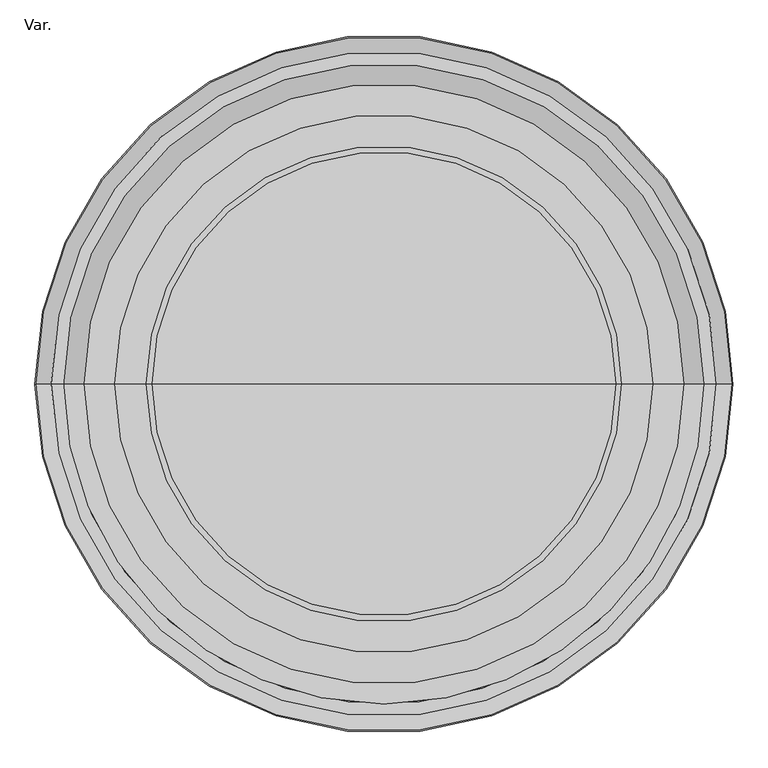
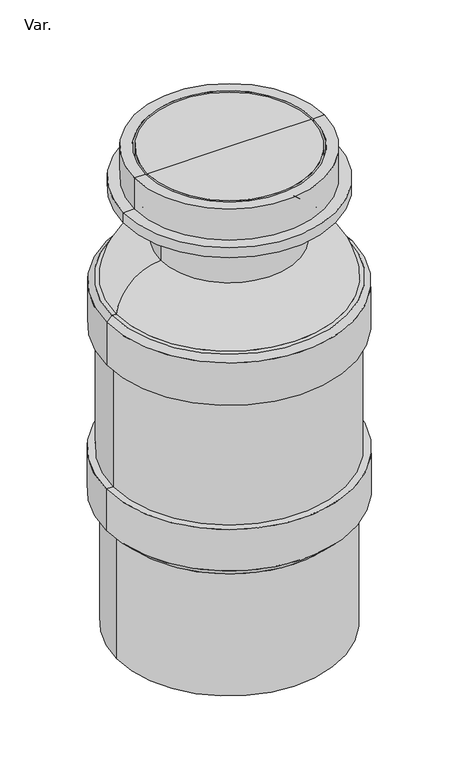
"""IFC4 building model written with IfcOpenShell, lengths in millimetres: pipe fitting geometry, PavcoWavin_UnionesDeTuberia_NovacamTipoTanque : Var.."""

from ifc_helpers import new_model, si_unit, point, frame, origin, place, context, project, spatial, polyline, circle_curve, ellipse_curve, trimmed, source, transform, mapped, element, save
from ifc_brep_helpers import plane_surface, cylinder_surface, revolved_surface, advanced_brep


def var_4e97a6d6(model_context):
    return source(origin(), model_context, "Body", "AdvancedBrep", [
        advanced_brep(
        [(385.0, 0.0, 2086.0), (-385.0, 0.0, 2086.0), (-385.0, 0.0, 1986.0), (385.0, 0.0, 1986.0), (435.0, 0.0, 1936.0), (-435.0, 0.0, 1936.0), (-435.0, 0.0, 2086.0), (435.0, 0.0, 2086.0), (485.0, 0.0, 1936.0), (-485.0, 0.0, 1936.0), (485.0, 0.0, 1886.0), (-485.0, 0.0, 1886.0), (335.0, 0.0, 1886.0), (-335.0, 0.0, 1886.0), (335.0, 0.0, 1986.0), (-335.0, 0.0, 1986.0)],
        [
            (0, 1, circle_curve(frame((0.0, 0.0, 2086.0), z_axis=(0.0, 0.0, 1.0), x_axis=(-1.0, 0.0, 0.0)), 385.0)),
            (1, 2),
            (2, 3, circle_curve(frame((0.0, 0.0, 1986.0), z_axis=(0.0, 0.0, -1.0), x_axis=(-1.0, 0.0, 0.0)), 385.0)),
            (3, 0),
            (4, 5, circle_curve(frame((0.0, 0.0, 1936.0), z_axis=(0.0, 0.0, 1.0), x_axis=(-1.0, 0.0, 0.0)), 435.0)),
            (5, 6),
            (6, 7, circle_curve(frame((0.0, 0.0, 2086.0), z_axis=(0.0, 0.0, -1.0), x_axis=(-1.0, 0.0, 0.0)), 435.0)),
            (7, 4),
            (8, 9, circle_curve(frame((0.0, 0.0, 1936.0), z_axis=(0.0, 0.0, 1.0), x_axis=(-1.0, 0.0, 0.0)), 485.0)),
            (9, 5),
            (4, 8),
            (10, 11, circle_curve(frame((0.0, 0.0, 1886.0), z_axis=(0.0, 0.0, 1.0), x_axis=(-1.0, 0.0, 0.0)), 485.0)),
            (11, 9),
            (8, 10),
            (12, 13, circle_curve(frame((0.0, 0.0, 1886.0), z_axis=(0.0, 0.0, 1.0), x_axis=(-1.0, 0.0, 0.0)), 335.0)),
            (13, 11),
            (10, 12),
            (14, 15, circle_curve(frame((0.0, 0.0, 1986.0), z_axis=(0.0, 0.0, 1.0), x_axis=(-1.0, 0.0, 0.0)), 335.0)),
            (15, 13),
            (12, 14),
            (2, 15),
            (14, 3),
            (1, 0, circle_curve(frame((0.0, 0.0, 2086.0), z_axis=(0.0, 0.0, 1.0), x_axis=(-1.0, 0.0, 0.0)), 385.0)),
            (3, 2, circle_curve(frame((0.0, 0.0, 1986.0), z_axis=(0.0, 0.0, -1.0), x_axis=(-1.0, 0.0, 0.0)), 385.0)),
            (5, 4, circle_curve(frame((0.0, 0.0, 1936.0), z_axis=(0.0, 0.0, 1.0), x_axis=(-1.0, 0.0, 0.0)), 435.0)),
            (7, 6, circle_curve(frame((0.0, 0.0, 2086.0), z_axis=(0.0, 0.0, -1.0), x_axis=(-1.0, 0.0, 0.0)), 435.0)),
            (9, 8, circle_curve(frame((0.0, 0.0, 1936.0), z_axis=(0.0, 0.0, 1.0), x_axis=(-1.0, 0.0, 0.0)), 485.0)),
            (11, 10, circle_curve(frame((0.0, 0.0, 1886.0), z_axis=(0.0, 0.0, 1.0), x_axis=(-1.0, 0.0, 0.0)), 485.0)),
            (13, 12, circle_curve(frame((0.0, 0.0, 1886.0), z_axis=(0.0, 0.0, 1.0), x_axis=(-1.0, 0.0, 0.0)), 335.0)),
            (15, 14, circle_curve(frame((0.0, 0.0, 1986.0), z_axis=(0.0, 0.0, 1.0), x_axis=(-1.0, 0.0, 0.0)), 335.0)),
            (6, 1),
            (0, 7),
        ],
        [
            revolved_surface(polyline([(-385.0, 0.0, 1986.0), (-385.0, 0.0, 2086.0)]), (0.0, 0.0, 1965.0514894), (0.0, 0.0, -1.0)),
            cylinder_surface(frame((0.0, 0.0, 1965.0514894), z_axis=(0.0, 0.0, -1.0), x_axis=(-1.0, 0.0, 0.0)), 435.0),
            plane_surface(frame((0.0, 0.0, 1936.0), z_axis=(0.0, 0.0, 1.0), x_axis=(-1.0, 0.0, 0.0))),
            cylinder_surface(frame((0.0, 0.0, 1965.0514894), z_axis=(0.0, 0.0, -1.0), x_axis=(-1.0, 0.0, 0.0)), 485.0),
            plane_surface(frame((0.0, 0.0, 1886.0), z_axis=(0.0, 0.0, -1.0), x_axis=(-1.0, 0.0, 0.0))),
            revolved_surface(polyline([(-335.0, 0.0, 1886.0), (-335.0, 0.0, 1986.0)]), (0.0, 0.0, 1965.0514894), (0.0, 0.0, -1.0)),
            plane_surface(frame((0.0, 0.0, 1986.0), z_axis=(0.0, 0.0, 1.0), x_axis=(-1.0, 0.0, 0.0))),
            plane_surface(frame((0.0, 0.0, 2086.0), z_axis=(0.0, 0.0, 1.0), x_axis=(-1.0, 0.0, 0.0))),
        ],
        [
            (0, [[1, 2, 3, 4]]),
            (1, [[5, 6, 7, 8]]),
            (2, [[9, 10, -5, 11]]),
            (3, [[12, 13, -9, 14]]),
            (4, [[15, 16, -12, 17]]),
            (5, [[18, 19, -15, 20]]),
            (6, [[-3, 21, -18, 22]]),
            (0, [[23, -4, 24, -2]]),
            (1, [[25, -8, 26, -6]]),
            (2, [[27, -11, -25, -10]]),
            (3, [[28, -14, -27, -13]]),
            (4, [[29, -17, -28, -16]]),
            (5, [[30, -20, -29, -19]]),
            (6, [[-24, -22, -30, -21]]),
            (7, [[-7, 31, -1, 32]]),
            (7, [[-26, -32, -23, -31]]),
        ],
    ),
        advanced_brep(
        [(265.0, 0.0, 2036.0), (-265.0, 0.0, 2036.0), (-305.0, 0.0, 1996.0), (305.0, 0.0, 1996.0), (-375.0, 0.0, 1996.0), (375.0, 0.0, 1996.0), (-375.0, 0.0, 2086.0), (375.0, 0.0, 2086.0), (0.0, 0.0, 2036.0), (0.0, 0.0, 2086.0)],
        [
            (0, 1, circle_curve(frame((0.0, 0.0, 2036.0), z_axis=(0.0, 0.0, 1.0), x_axis=(-1.0, 0.0, 0.0)), 265.0)),
            (1, 2),
            (2, 3, circle_curve(frame((0.0, 0.0, 1996.0), z_axis=(0.0, 0.0, -1.0), x_axis=(-1.0, 0.0, 0.0)), 305.0)),
            (3, 0),
            (2, 4),
            (4, 5, circle_curve(frame((0.0, 0.0, 1996.0), z_axis=(0.0, 0.0, -1.0), x_axis=(-1.0, 0.0, 0.0)), 375.0)),
            (5, 3),
            (4, 6),
            (6, 7, circle_curve(frame((0.0, 0.0, 2086.0), z_axis=(0.0, 0.0, -1.0), x_axis=(-1.0, 0.0, 0.0)), 375.0)),
            (7, 5),
            (4, 5, circle_curve(frame((0.0, 0.0, 1996.0), z_axis=(0.0, 0.0, 1.0), x_axis=(-1.0, 0.0, 0.0)), 375.0)),
            (7, 6, circle_curve(frame((0.0, 0.0, 2086.0), z_axis=(0.0, 0.0, -1.0), x_axis=(-1.0, 0.0, 0.0)), 375.0)),
            (2, 3, circle_curve(frame((0.0, 0.0, 1996.0), z_axis=(0.0, 0.0, 1.0), x_axis=(-1.0, 0.0, 0.0)), 305.0)),
            (1, 0, circle_curve(frame((0.0, 0.0, 2036.0), z_axis=(0.0, 0.0, 1.0), x_axis=(-1.0, 0.0, 0.0)), 265.0)),
            (8, 1),
            (0, 8),
            (6, 9),
            (9, 7),
        ],
        [
            revolved_surface(polyline([(-305.0, 0.0, 1996.0), (-265.0, 0.0, 2036.0)]), (0.0, 0.0, 1965.0514894), (0.0, 0.0, -1.0)),
            plane_surface(frame((0.0, 0.0, 1996.0), z_axis=(0.0, 0.0, -1.0), x_axis=(-1.0, 0.0, 0.0))),
            cylinder_surface(frame((0.0, 0.0, 1965.0514894), z_axis=(0.0, 0.0, -1.0), x_axis=(-1.0, 0.0, 0.0)), 375.0),
            plane_surface(frame((0.0, 0.0, 2036.0), z_axis=(0.0, 0.0, -1.0), x_axis=(-1.0, 0.0, 0.0))),
            plane_surface(frame((0.0, 0.0, 2086.0), z_axis=(0.0, 0.0, 1.0), x_axis=(-1.0, 0.0, 0.0))),
        ],
        [
            (0, [[1, 2, 3, 4]]),
            (1, [[-3, 5, 6, 7]]),
            (2, [[-6, 8, 9, 10]]),
            (2, [[11, -10, 12, -8]]),
            (1, [[13, -7, -11, -5]]),
            (0, [[14, -4, -13, -2]]),
            (3, [[15, -1, 16]]),
            (3, [[-16, -14, -15]]),
            (4, [[-9, 17, 18]]),
            (4, [[-12, -18, -17]]),
        ],
    ),
        advanced_brep(
        [(532.5, 0.0, 1426.0), (-532.5, 0.0, 1426.0), (-532.5, 0.0, 1226.0), (532.5, 0.0, 1226.0), (562.5, 0.0, 1226.0), (-562.5, 0.0, 1226.0), (-562.5, 0.0, 1431.3847763), (562.5, 0.0, 1431.3847763), (-537.7512627, 0.0, 1456.1335137), (537.7512627, 0.0, 1456.1335137), (302.0, 0.0, 1936.0), (-302.0, 0.0, 1936.0), (-302.0, 0.0, 1633.1513611), (302.0, 0.0, 1633.1513611), (315.0, 0.0, 1936.0), (-315.0, 0.0, 1936.0), (315.0, 0.0, 1646.0), (-315.0, 0.0, 1646.0), (504.7565196, 0.0, 1426.0), (-504.7565196, 0.0, 1426.0), (504.7565196, 0.0, 1456.5031787), (-504.7565196, 0.0, 1456.5031787), (314.6308936, 0.0, 1633.1513611), (-314.6308936, 0.0, 1633.1513611), (517.7512627, 0.0, 1456.1335137), (-517.7512627, 0.0, 1456.1335137)],
        [
            (0, 1, circle_curve(frame((0.0, 0.0, 1426.0), z_axis=(0.0, 0.0, 1.0), x_axis=(-1.0, 0.0, 0.0)), 532.5)),
            (1, 2),
            (2, 3, circle_curve(frame((0.0, 0.0, 1226.0), z_axis=(0.0, 0.0, -1.0), x_axis=(-1.0, 0.0, 0.0)), 532.5)),
            (3, 0),
            (1, 0, circle_curve(frame((0.0, 0.0, 1426.0), z_axis=(0.0, 0.0, 1.0), x_axis=(-1.0, 0.0, 0.0)), 532.5)),
            (3, 2, circle_curve(frame((0.0, 0.0, 1226.0), z_axis=(0.0, 0.0, -1.0), x_axis=(-1.0, 0.0, 0.0)), 532.5)),
            (4, 5, circle_curve(frame((0.0, 0.0, 1226.0), z_axis=(0.0, 0.0, 1.0), x_axis=(-1.0, 0.0, 0.0)), 562.5)),
            (5, 6),
            (6, 7, circle_curve(frame((0.0, 0.0, 1431.3847763), z_axis=(0.0, 0.0, -1.0), x_axis=(-1.0, 0.0, 0.0)), 562.5)),
            (7, 4),
            (5, 4, circle_curve(frame((0.0, 0.0, 1226.0), z_axis=(0.0, 0.0, 1.0), x_axis=(-1.0, 0.0, 0.0)), 562.5)),
            (7, 6, circle_curve(frame((0.0, 0.0, 1431.3847763), z_axis=(0.0, 0.0, -1.0), x_axis=(-1.0, 0.0, 0.0)), 562.5)),
            (2, 5),
            (4, 3),
            (6, 8),
            (8, 9, circle_curve(frame((0.0, 0.0, 1456.1335137), z_axis=(0.0, 0.0, -1.0), x_axis=(-1.0, 0.0, 0.0)), 537.7512627)),
            (9, 7),
            (9, 8, circle_curve(frame((0.0, 0.0, 1456.1335137), z_axis=(0.0, 0.0, -1.0), x_axis=(-1.0, 0.0, 0.0)), 537.7512627)),
            (10, 11, circle_curve(frame((0.0, 0.0, 1936.0), z_axis=(0.0, 0.0, 1.0), x_axis=(-1.0, 0.0, 0.0)), 302.0)),
            (11, 12),
            (12, 13, circle_curve(frame((0.0, 0.0, 1633.1513611), z_axis=(0.0, 0.0, -1.0), x_axis=(-1.0, 0.0, 0.0)), 302.0)),
            (13, 10),
            (11, 10, circle_curve(frame((0.0, 0.0, 1936.0), z_axis=(0.0, 0.0, 1.0), x_axis=(-1.0, 0.0, 0.0)), 302.0)),
            (13, 12, circle_curve(frame((0.0, 0.0, 1633.1513611), z_axis=(0.0, 0.0, -1.0), x_axis=(-1.0, 0.0, 0.0)), 302.0)),
            (14, 15, circle_curve(frame((0.0, 0.0, 1936.0), z_axis=(0.0, 0.0, 1.0), x_axis=(-1.0, 0.0, 0.0)), 315.0)),
            (15, 11),
            (10, 14),
            (15, 14, circle_curve(frame((0.0, 0.0, 1936.0), z_axis=(0.0, 0.0, 1.0), x_axis=(-1.0, 0.0, 0.0)), 315.0)),
            (16, 17, circle_curve(frame((0.0, 0.0, 1646.0), z_axis=(0.0, 0.0, 1.0), x_axis=(-1.0, 0.0, 0.0)), 315.0)),
            (17, 15),
            (14, 16),
            (17, 16, circle_curve(frame((0.0, 0.0, 1646.0), z_axis=(0.0, 0.0, 1.0), x_axis=(-1.0, 0.0, 0.0)), 315.0)),
            (18, 19, circle_curve(frame((0.0, 0.0, 1426.0), z_axis=(0.0, 0.0, 1.0), x_axis=(-1.0, 0.0, 0.0)), 504.7565196)),
            (19, 1),
            (0, 18),
            (19, 18, circle_curve(frame((0.0, 0.0, 1426.0), z_axis=(0.0, 0.0, 1.0), x_axis=(-1.0, 0.0, 0.0)), 504.7565196)),
            (20, 21, circle_curve(frame((0.0, 0.0, 1456.5031787), z_axis=(0.0, 0.0, 1.0), x_axis=(-1.0, 0.0, 0.0)), 504.7565196)),
            (21, 19),
            (18, 20),
            (21, 20, circle_curve(frame((0.0, 0.0, 1456.5031787), z_axis=(0.0, 0.0, 1.0), x_axis=(-1.0, 0.0, 0.0)), 504.7565196)),
            (22, 23, circle_curve(frame((0.0, 0.0, 1633.1513611), z_axis=(0.0, 0.0, 1.0), x_axis=(-1.0, 0.0, 0.0)), 314.6308936)),
            (23, 21, circle_curve(frame((-303.4589219, 0.0, 1430.4872598), z_axis=(0.0, -1.0, 0.0), x_axis=(1.0, 0.0, 0.0)), 202.9717982)),
            (20, 22, circle_curve(frame((303.4589219, 0.0, 1430.4872598), z_axis=(0.0, -1.0, 0.0), x_axis=(-1.0, 0.0, 0.0)), 202.9717982)),
            (23, 22, circle_curve(frame((0.0, 0.0, 1633.1513611), z_axis=(0.0, 0.0, 1.0), x_axis=(-1.0, 0.0, 0.0)), 314.6308936)),
            (12, 23),
            (22, 13),
            (24, 25, circle_curve(frame((0.0, 0.0, 1456.1335137), z_axis=(0.0, 0.0, 1.0), x_axis=(-1.0, 0.0, 0.0)), 517.7512627)),
            (25, 17, circle_curve(frame((-303.4589219, 0.0, 1430.4872598), z_axis=(0.0, 1.0, 0.0), x_axis=(1.0, 0.0, 0.0)), 215.8215412)),
            (16, 24, circle_curve(frame((303.4589219, 0.0, 1430.4872598), z_axis=(0.0, 1.0, 0.0), x_axis=(-1.0, 0.0, 0.0)), 215.8215412)),
            (25, 24, circle_curve(frame((0.0, 0.0, 1456.1335137), z_axis=(0.0, 0.0, 1.0), x_axis=(-1.0, 0.0, 0.0)), 517.7512627)),
            (8, 25),
            (24, 9),
        ],
        [
            revolved_surface(polyline([(-532.5, 0.0, 1226.0), (-532.5, 0.0, 1426.0)]), (0.0, 0.0, 2917.4814588), (0.0, 0.0, -1.0)),
            cylinder_surface(frame((0.0, 0.0, 2917.4814588), z_axis=(0.0, 0.0, -1.0), x_axis=(-1.0, 0.0, 0.0)), 562.5),
            plane_surface(frame((0.0, 0.0, 1226.0), z_axis=(0.0, 0.0, -1.0), x_axis=(-1.0, 0.0, 0.0))),
            revolved_surface(polyline([(-537.7512627, 0.0, 1456.1335137), (-562.5, 0.0, 1431.3847763)]), (0.0, 0.0, 2917.4814588), (0.0, 0.0, -1.0)),
            revolved_surface(polyline([(-302.0, 0.0, 1633.1513611), (-302.0, 0.0, 1936.0)]), (0.0, 0.0, 2917.4814588), (0.0, 0.0, -1.0)),
            plane_surface(frame((0.0, 0.0, 1936.0), z_axis=(0.0, 0.0, 1.0), x_axis=(-1.0, 0.0, 0.0))),
            cylinder_surface(frame((0.0, 0.0, 2917.4814588), z_axis=(0.0, 0.0, -1.0), x_axis=(-1.0, 0.0, 0.0)), 315.0),
            plane_surface(frame((0.0, 0.0, 1426.0), z_axis=(0.0, 0.0, -1.0), x_axis=(-1.0, 0.0, 0.0))),
            revolved_surface(polyline([(-504.7565196, 0.0, 1426.0), (-504.7565196, 0.0, 1456.5031787)]), (0.0, 0.0, 2917.4814588), (0.0, 0.0, -1.0)),
            revolved_surface(trimmed(ellipse_curve(frame((-303.4589219, 0.0, 1430.4872598), z_axis=(0.0, 1.0, 0.0), x_axis=(1.0, 0.0, 0.0)), 202.9717982, 202.9717982), [point((-504.7565196, 0.0, 1456.5031787))], [point((-314.6308936, 0.0, 1633.1513611))], True, "CARTESIAN"), (0.0, 0.0, 2917.4814588), (0.0, 0.0, -1.0)),
            plane_surface(frame((0.0, 0.0, 1633.1513611), z_axis=(0.0, 0.0, -1.0), x_axis=(-1.0, 0.0, 0.0))),
            revolved_surface(trimmed(ellipse_curve(frame((-303.4589219, 0.0, 1430.4872598), z_axis=(0.0, -1.0, 0.0), x_axis=(1.0, 0.0, 0.0)), 215.8215412, 215.8215412), [point((-315.0, 0.0, 1646.0))], [point((-517.7512627, 0.0, 1456.1335137))], True, "CARTESIAN"), (0.0, 0.0, 2917.4814588), (0.0, 0.0, -1.0)),
            plane_surface(frame((0.0, 0.0, 1456.1335137), z_axis=(0.0, 0.0, 1.0), x_axis=(-1.0, 0.0, 0.0))),
        ],
        [
            (0, [[1, 2, 3, 4]]),
            (0, [[5, -4, 6, -2]]),
            (1, [[7, 8, 9, 10]]),
            (1, [[11, -10, 12, -8]]),
            (2, [[-3, 13, -7, 14]]),
            (2, [[-6, -14, -11, -13]]),
            (3, [[-9, 15, 16, 17]]),
            (3, [[-12, -17, 18, -15]]),
            (4, [[19, 20, 21, 22]]),
            (4, [[23, -22, 24, -20]]),
            (5, [[25, 26, -19, 27]]),
            (5, [[28, -27, -23, -26]]),
            (6, [[29, 30, -25, 31]]),
            (6, [[32, -31, -28, -30]]),
            (7, [[33, 34, -1, 35]]),
            (7, [[36, -35, -5, -34]]),
            (8, [[37, 38, -33, 39]]),
            (8, [[40, -39, -36, -38]]),
            (9, [[41, 42, -37, 43]]),
            (9, [[44, -43, -40, -42]]),
            (10, [[-21, 45, -41, 46]]),
            (10, [[-24, -46, -44, -45]]),
            (11, [[47, 48, -29, 49]]),
            (11, [[50, -49, -32, -48]]),
            (12, [[-16, 51, -47, 52]]),
            (12, [[-18, -52, -50, -51]]),
        ],
    ),
        advanced_brep(
        [(532.5, 0.0, 426.0), (-532.5, 0.0, 426.0), (-532.5, 0.0, 1426.0), (532.5, 0.0, 1426.0), (488.8, 0.0, 426.0), (-488.8, 0.0, 426.0), (488.8, 0.0, 1426.0), (-488.8, 0.0, 1426.0)],
        [
            (0, 1, circle_curve(frame((0.0, 0.0, 426.0), z_axis=(0.0, 0.0, 1.0), x_axis=(-1.0, 0.0, 0.0)), 532.5)),
            (1, 2),
            (2, 3, circle_curve(frame((0.0, 0.0, 1426.0), z_axis=(0.0, 0.0, -1.0), x_axis=(-1.0, 0.0, 0.0)), 532.5)),
            (3, 0),
            (1, 0, circle_curve(frame((0.0, 0.0, 426.0), z_axis=(0.0, 0.0, 1.0), x_axis=(-1.0, 0.0, 0.0)), 532.5)),
            (3, 2, circle_curve(frame((0.0, 0.0, 1426.0), z_axis=(0.0, 0.0, -1.0), x_axis=(-1.0, 0.0, 0.0)), 532.5)),
            (4, 5, circle_curve(frame((0.0, 0.0, 426.0), z_axis=(0.0, 0.0, 1.0), x_axis=(-1.0, 0.0, 0.0)), 488.8)),
            (5, 1),
            (0, 4),
            (5, 4, circle_curve(frame((0.0, 0.0, 426.0), z_axis=(0.0, 0.0, 1.0), x_axis=(-1.0, 0.0, 0.0)), 488.8)),
            (6, 7, circle_curve(frame((0.0, 0.0, 1426.0), z_axis=(0.0, 0.0, 1.0), x_axis=(-1.0, 0.0, 0.0)), 488.8)),
            (7, 5),
            (4, 6),
            (7, 6, circle_curve(frame((0.0, 0.0, 1426.0), z_axis=(0.0, 0.0, 1.0), x_axis=(-1.0, 0.0, 0.0)), 488.8)),
            (2, 7),
            (6, 3),
        ],
        [
            cylinder_surface(frame((0.0, 0.0, 2880.3114894), z_axis=(0.0, 0.0, -1.0), x_axis=(-1.0, 0.0, 0.0)), 532.5),
            plane_surface(frame((0.0, 0.0, 426.0), z_axis=(0.0, 0.0, -1.0), x_axis=(-1.0, 0.0, 0.0))),
            revolved_surface(polyline([(-488.8, 0.0, 426.0), (-488.8, 0.0, 1426.0)]), (0.0, 0.0, 2880.3114894), (0.0, 0.0, -1.0)),
            plane_surface(frame((0.0, 0.0, 1426.0), z_axis=(0.0, 0.0, 1.0), x_axis=(-1.0, 0.0, 0.0))),
        ],
        [
            (0, [[1, 2, 3, 4]]),
            (0, [[5, -4, 6, -2]]),
            (1, [[7, 8, -1, 9]]),
            (1, [[10, -9, -5, -8]]),
            (2, [[11, 12, -7, 13]]),
            (2, [[14, -13, -10, -12]]),
            (3, [[-3, 15, -11, 16]]),
            (3, [[-6, -16, -14, -15]]),
        ],
    ),
        advanced_brep(
        [(564.5, 0.0, 626.0), (-564.5, 0.0, 626.0), (-532.5, 0.0, 626.0), (532.5, 0.0, 626.0), (564.5, 0.0, 426.0), (-564.5, 0.0, 426.0), (0.0, 0.0, -214.0), (-515.0, 0.0, -214.0), (515.0, 0.0, -214.0), (532.5, 0.0, 426.0), (-532.5, 0.0, 426.0), (0.0, 0.0, 426.0), (-515.0, 0.0, 376.5), (515.0, 0.0, 376.5)],
        [
            (0, 1, circle_curve(frame((0.0, 0.0, 626.0), z_axis=(0.0, 0.0, 1.0), x_axis=(-1.0, 0.0, 0.0)), 564.5)),
            (1, 2),
            (2, 3, circle_curve(frame((0.0, 0.0, 626.0), z_axis=(0.0, 0.0, -1.0), x_axis=(-1.0, 0.0, 0.0)), 532.5)),
            (3, 0),
            (1, 0, circle_curve(frame((0.0, 0.0, 626.0), z_axis=(0.0, 0.0, 1.0), x_axis=(-1.0, 0.0, 0.0)), 564.5)),
            (3, 2, circle_curve(frame((0.0, 0.0, 626.0), z_axis=(0.0, 0.0, -1.0), x_axis=(-1.0, 0.0, 0.0)), 532.5)),
            (4, 5, circle_curve(frame((0.0, 0.0, 426.0), z_axis=(0.0, 0.0, 1.0), x_axis=(-1.0, 0.0, 0.0)), 564.5)),
            (5, 1),
            (0, 4),
            (5, 4, circle_curve(frame((0.0, 0.0, 426.0), z_axis=(0.0, 0.0, 1.0), x_axis=(-1.0, 0.0, 0.0)), 564.5)),
            (6, 7),
            (7, 8, circle_curve(frame((0.0, 0.0, -214.0), z_axis=(0.0, 0.0, -1.0), x_axis=(-1.0, 0.0, 0.0)), 515.0)),
            (8, 6),
            (8, 7, circle_curve(frame((0.0, 0.0, -214.0), z_axis=(0.0, 0.0, -1.0), x_axis=(-1.0, 0.0, 0.0)), 515.0)),
            (9, 10, circle_curve(frame((0.0, 0.0, 426.0), z_axis=(0.0, 0.0, 1.0), x_axis=(-1.0, 0.0, 0.0)), 532.5)),
            (10, 11),
            (11, 9),
            (10, 9, circle_curve(frame((0.0, 0.0, 426.0), z_axis=(0.0, 0.0, 1.0), x_axis=(-1.0, 0.0, 0.0)), 532.5)),
            (7, 12),
            (12, 13, circle_curve(frame((0.0, 0.0, 376.5), z_axis=(0.0, 0.0, -1.0), x_axis=(-1.0, 0.0, 0.0)), 515.0)),
            (13, 8),
            (13, 12, circle_curve(frame((0.0, 0.0, 376.5), z_axis=(0.0, 0.0, -1.0), x_axis=(-1.0, 0.0, 0.0)), 515.0)),
            (12, 5),
            (4, 13),
            (2, 10),
            (9, 3),
        ],
        [
            plane_surface(frame((0.0, 0.0, 626.0), z_axis=(0.0, 0.0, 1.0), x_axis=(-1.0, 0.0, 0.0))),
            cylinder_surface(frame((0.0, 0.0, 765.1779757), z_axis=(0.0, 0.0, -1.0), x_axis=(-1.0, 0.0, 0.0)), 564.5),
            plane_surface(frame((0.0, 0.0, -214.0), z_axis=(0.0, 0.0, -1.0), x_axis=(-1.0, 0.0, 0.0))),
            plane_surface(frame((0.0, 0.0, 426.0), z_axis=(0.0, 0.0, 1.0), x_axis=(-1.0, 0.0, 0.0))),
            cylinder_surface(frame((0.0, 0.0, 765.1779757), z_axis=(0.0, 0.0, -1.0), x_axis=(-1.0, 0.0, 0.0)), 515.0),
            revolved_surface(polyline([(-564.5, 0.0, 426.0), (-515.0, 0.0, 376.5)]), (0.0, 0.0, 765.1779757), (0.0, 0.0, -1.0)),
            revolved_surface(polyline([(-532.5, 0.0, 426.0), (-532.5, 0.0, 626.0)]), (0.0, 0.0, 765.1779757), (0.0, 0.0, -1.0)),
        ],
        [
            (0, [[1, 2, 3, 4]]),
            (0, [[5, -4, 6, -2]]),
            (1, [[7, 8, -1, 9]]),
            (1, [[10, -9, -5, -8]]),
            (2, [[11, 12, 13]]),
            (2, [[-13, 14, -11]]),
            (3, [[15, 16, 17]]),
            (3, [[18, -17, -16]]),
            (4, [[-12, 19, 20, 21]]),
            (4, [[-14, -21, 22, -19]]),
            (5, [[-20, 23, -7, 24]]),
            (5, [[-22, -24, -10, -23]]),
            (6, [[-3, 25, -15, 26]]),
            (6, [[-6, -26, -18, -25]]),
        ],
    ),
    ])


if __name__ == "__main__":
    model = new_model("IFC4")
    model_context = context("Model", 3, world=origin())
    ifc_project = project(units=[si_unit("LENGTHUNIT", "METRE", prefix="MILLI")], contexts=[model_context])
    site = spatial("IfcSite", under=ifc_project)
    building = spatial("IfcBuilding", under=site)
    placement = place(None, origin())
    var_shape = var_4e97a6d6(model_context)
    element("IfcPipeFitting", 1, ObjectType="PavcoWavin_UnionesDeTuberia_NovacamTipoTanque : Var.", at=placement, inside=building, context=model_context, shape_type="MappedRepresentation", body=[
        mapped(var_shape, transform((0.0, 0.0, 0.0), x_axis=(1.0, 0.0, 0.0), y_axis=(0.0, 1.0, 0.0), z_axis=(0.0, 0.0, 1.0))),
    ])
    save(model, "model.ifc")
